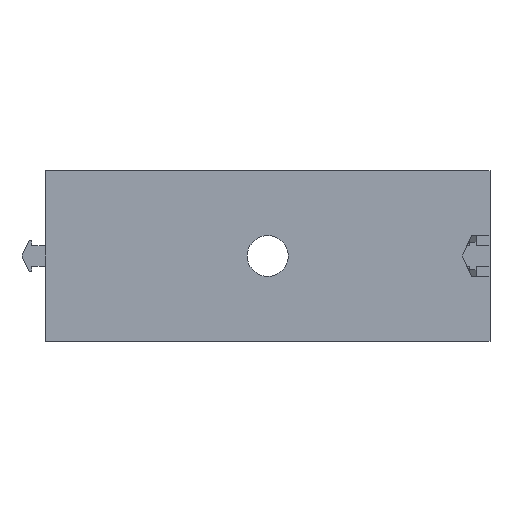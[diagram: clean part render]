
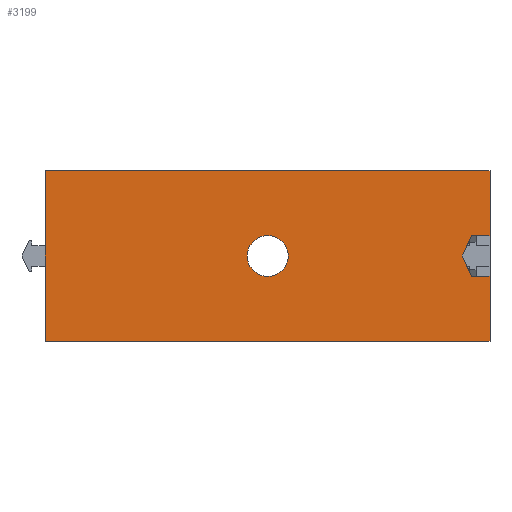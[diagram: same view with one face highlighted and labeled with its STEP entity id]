
A CAD part, front view. The second image highlights one B-rep face of the part: STEP entity #3199.
In plain terms, the highlighted planar face has unit normal (0, -1, 0).
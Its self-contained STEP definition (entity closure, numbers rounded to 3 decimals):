
#36 = VERTEX_POINT ( 'NONE', #3879 ) ;
#37 = VERTEX_POINT ( 'NONE', #3859 ) ;
#38 = VERTEX_POINT ( 'NONE', #3875 ) ;
#39 = VERTEX_POINT ( 'NONE', #3827 ) ;
#43 = VERTEX_POINT ( 'NONE', #3851 ) ;
#64 = VERTEX_POINT ( 'NONE', #3872 ) ;
#65 = VERTEX_POINT ( 'NONE', #3897 ) ;
#81 = VERTEX_POINT ( 'NONE', #3895 ) ;
#82 = VERTEX_POINT ( 'NONE', #3887 ) ;
#262 = EDGE_CURVE ( 'NONE', #38, #43, #706, .T. ) ;
#372 = ORIENTED_EDGE ( 'NONE', *, *, #5217, .F. ) ;
#373 = ORIENTED_EDGE ( 'NONE', *, *, #4107, .F. ) ;
#395 = ORIENTED_EDGE ( 'NONE', *, *, #5209, .T. ) ;
#415 = ORIENTED_EDGE ( 'NONE', *, *, #3048, .T. ) ;
#425 = ORIENTED_EDGE ( 'NONE', *, *, #262, .F. ) ;
#439 = ORIENTED_EDGE ( 'NONE', *, *, #4063, .F. ) ;
#447 = ORIENTED_EDGE ( 'NONE', *, *, #4125, .T. ) ;
#481 = ORIENTED_EDGE ( 'NONE', *, *, #4093, .T. ) ;
#486 = ORIENTED_EDGE ( 'NONE', *, *, #4168, .T. ) ;
#487 = ORIENTED_EDGE ( 'NONE', *, *, #4084, .F. ) ;
#499 = ORIENTED_EDGE ( 'NONE', *, *, #4138, .F. ) ;
#541 = VECTOR ( 'NONE', #2295, 1000. ) ;
#547 = LINE ( 'NONE', #2277, #548 ) ;
#548 = VECTOR ( 'NONE', #2278, 1000. ) ;
#706 = LINE ( 'NONE', #3615, #709 ) ;
#709 = VECTOR ( 'NONE', #3598, 1000. ) ;
#1430 = PLANE ( 'NONE',  #3644 ) ;
#1433 = CARTESIAN_POINT ( 'NONE',  ( 32., -40.3, 0. ) ) ;
#1438 = DIRECTION ( 'NONE',  ( 0., 1., 0. ) ) ;
#1439 = DIRECTION ( 'NONE',  ( 0., 0., 1. ) ) ;
#1618 = CARTESIAN_POINT ( 'NONE',  ( 28., -40.3, 0. ) ) ;
#1620 = DIRECTION ( 'NONE',  ( 0.423, 0., -0.906 ) ) ;
#1663 = CARTESIAN_POINT ( 'NONE',  ( 32., -40.3, 0. ) ) ;
#1664 = DIRECTION ( 'NONE',  ( 0., 0., -1. ) ) ;
#1711 = CARTESIAN_POINT ( 'NONE',  ( 32., -40.3, 2.95 ) ) ;
#1712 = DIRECTION ( 'NONE',  ( 1., 0., 0. ) ) ;
#1741 = CARTESIAN_POINT ( 'NONE',  ( 32., -40.3, 0. ) ) ;
#1742 = DIRECTION ( 'NONE',  ( 0., 0., -1. ) ) ;
#1778 = CARTESIAN_POINT ( 'NONE',  ( 32., -40.3, 12.25 ) ) ;
#1779 = DIRECTION ( 'NONE',  ( -1., 0., 0. ) ) ;
#1808 = CARTESIAN_POINT ( 'NONE',  ( 28., -40.3, 0. ) ) ;
#1809 = DIRECTION ( 'NONE',  ( -0.423, 0., -0.906 ) ) ;
#1861 = CARTESIAN_POINT ( 'NONE',  ( 0., -40.3, 0. ) ) ;
#1874 = DIRECTION ( 'NONE',  ( 0., 1., 0. ) ) ;
#1875 = DIRECTION ( 'NONE',  ( 0., 0., 1. ) ) ;
#1906 = CARTESIAN_POINT ( 'NONE',  ( 0., -40.3, 2.95 ) ) ;
#1944 = CARTESIAN_POINT ( 'NONE',  ( 0., -40.3, -2.95 ) ) ;
#2277 = CARTESIAN_POINT ( 'NONE',  ( -32., -40.3, 0. ) ) ;
#2278 = DIRECTION ( 'NONE',  ( 0., 0., -1. ) ) ;
#2294 = CARTESIAN_POINT ( 'NONE',  ( 32., -40.3, -12.25 ) ) ;
#2295 = DIRECTION ( 'NONE',  ( -1., 0., 0. ) ) ;
#2517 = EDGE_LOOP ( 'NONE', ( #486, #415 ) ) ;
#2521 = EDGE_LOOP ( 'NONE', ( #499, #481, #373, #447, #395, #372, #487, #425, #439 ) ) ;
#2653 = AXIS2_PLACEMENT_3D ( 'NONE', #2795, #2800, #2801 ) ;
#2795 = CARTESIAN_POINT ( 'NONE',  ( 0., -40.3, 0. ) ) ;
#2800 = DIRECTION ( 'NONE',  ( 0., 1., 0. ) ) ;
#2801 = DIRECTION ( 'NONE',  ( 0., 0., 1. ) ) ;
#3048 = EDGE_CURVE ( 'NONE', #4934, #4896, #3290, .T. ) ;
#3199 = ADVANCED_FACE ( 'NONE', ( #3488, #3493 ), #1430, .F. ) ;
#3290 = CIRCLE ( 'NONE', #2653, 2.95 ) ;
#3488 = FACE_BOUND ( 'NONE', #2517, .T. ) ;
#3493 = FACE_OUTER_BOUND ( 'NONE', #2521, .T. ) ;
#3559 = LINE ( 'NONE', #1618, #3562 ) ;
#3562 = VECTOR ( 'NONE', #1620, 1000. ) ;
#3598 = DIRECTION ( 'NONE',  ( 1., 0., 0. ) ) ;
#3615 = CARTESIAN_POINT ( 'NONE',  ( 29.376, -40.3, -2.95 ) ) ;
#3644 = AXIS2_PLACEMENT_3D ( 'NONE', #1433, #1438, #1439 ) ;
#3827 = CARTESIAN_POINT ( 'NONE',  ( 29.376, -40.3, 2.95 ) ) ;
#3851 = CARTESIAN_POINT ( 'NONE',  ( 32., -40.3, -2.95 ) ) ;
#3859 = CARTESIAN_POINT ( 'NONE',  ( 28., -40.3, 0. ) ) ;
#3872 = CARTESIAN_POINT ( 'NONE',  ( 32., -40.3, 2.95 ) ) ;
#3875 = CARTESIAN_POINT ( 'NONE',  ( 29.376, -40.3, -2.95 ) ) ;
#3879 = CARTESIAN_POINT ( 'NONE',  ( 32., -40.3, -12.25 ) ) ;
#3887 = CARTESIAN_POINT ( 'NONE',  ( -32., -40.3, 12.25 ) ) ;
#3895 = CARTESIAN_POINT ( 'NONE',  ( -32., -40.3, -12.25 ) ) ;
#3897 = CARTESIAN_POINT ( 'NONE',  ( 32., -40.3, 12.25 ) ) ;
#4018 = AXIS2_PLACEMENT_3D ( 'NONE', #1861, #1874, #1875 ) ;
#4063 = EDGE_CURVE ( 'NONE', #37, #38, #3559, .T. ) ;
#4084 = EDGE_CURVE ( 'NONE', #43, #36, #4200, .T. ) ;
#4093 = EDGE_CURVE ( 'NONE', #39, #64, #4216, .T. ) ;
#4107 = EDGE_CURVE ( 'NONE', #65, #64, #4243, .T. ) ;
#4125 = EDGE_CURVE ( 'NONE', #65, #82, #4277, .T. ) ;
#4138 = EDGE_CURVE ( 'NONE', #39, #37, #4300, .T. ) ;
#4168 = EDGE_CURVE ( 'NONE', #4896, #4934, #4356, .T. ) ;
#4200 = LINE ( 'NONE', #1663, #4201 ) ;
#4201 = VECTOR ( 'NONE', #1664, 1000. ) ;
#4216 = LINE ( 'NONE', #1711, #4217 ) ;
#4217 = VECTOR ( 'NONE', #1712, 1000. ) ;
#4243 = LINE ( 'NONE', #1741, #4244 ) ;
#4244 = VECTOR ( 'NONE', #1742, 1000. ) ;
#4277 = LINE ( 'NONE', #1778, #4278 ) ;
#4278 = VECTOR ( 'NONE', #1779, 1000. ) ;
#4300 = LINE ( 'NONE', #1808, #4301 ) ;
#4301 = VECTOR ( 'NONE', #1809, 1000. ) ;
#4356 = CIRCLE ( 'NONE', #4018, 2.95 ) ;
#4475 = LINE ( 'NONE', #2294, #541 ) ;
#4896 = VERTEX_POINT ( 'NONE', #1906 ) ;
#4934 = VERTEX_POINT ( 'NONE', #1944 ) ;
#5209 = EDGE_CURVE ( 'NONE', #82, #81, #547, .T. ) ;
#5217 = EDGE_CURVE ( 'NONE', #36, #81, #4475, .T. ) ;
